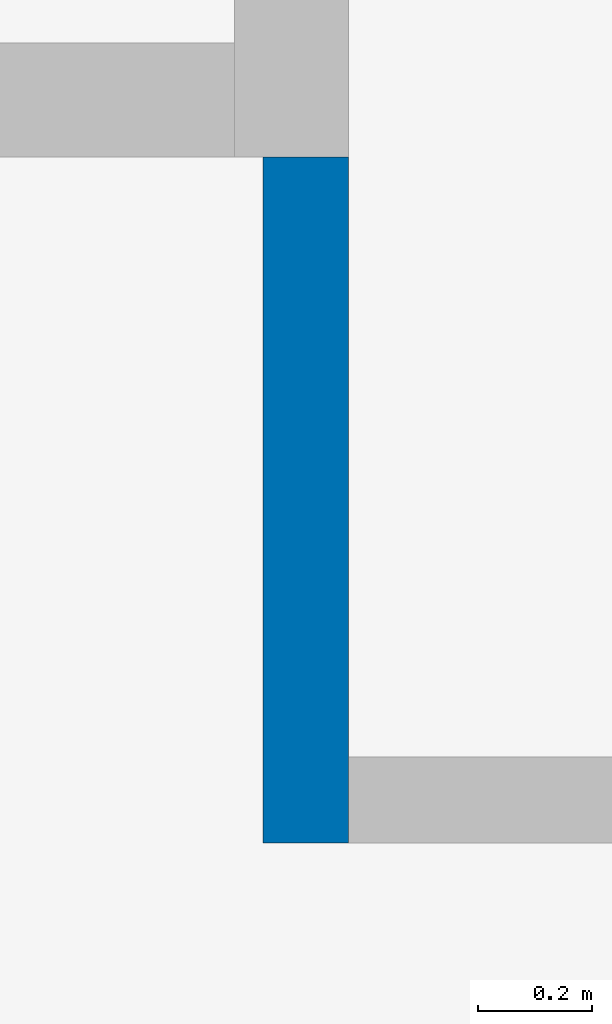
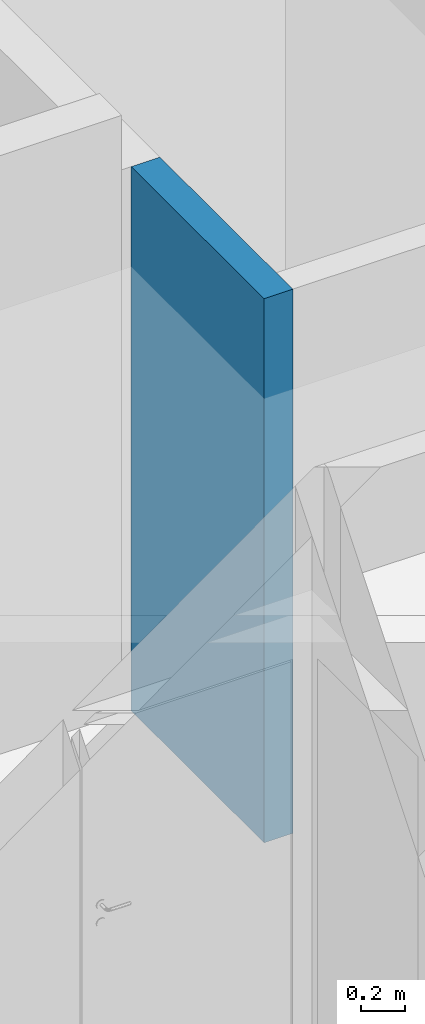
# One storey, part 26 of 58: 1 wall.
"""IFC2X3 building model written with IfcOpenShell, lengths in millimetres."""

from ifc_helpers import new_model, entity, si_unit, converted_unit, derived_unit, direction, frame, frame_2d, origin, place, context, subcontext, project, spatial, rectangle, extrude, material, layer, layer_set, layer_usage, type_object, element, save


model = new_model("IFC2X3")

# Units and contexts
model_context = context("Model", 3, precision=0.01, world=origin(), true_north=direction((0.7716245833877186, 0.6360782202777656)))
body_context = subcontext(model_context, "Body", "Model", "MODEL_VIEW")
ifc_project = project(units=[si_unit("LENGTHUNIT", "METRE", prefix="MILLI"), si_unit("AREAUNIT", "SQUARE_METRE"), converted_unit("PLANEANGLEUNIT", "DEGREE", entity("IfcPlaneAngleMeasure", 0.017453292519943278), si_unit("PLANEANGLEUNIT", "RADIAN"), dimensions=[0, 0, 0, 0, 0, 0, 0]), derived_unit("THERMALTRANSMITTANCEUNIT", [(si_unit("MASSUNIT", "GRAM", prefix="KILO"), 1), (si_unit("THERMODYNAMICTEMPERATUREUNIT", "KELVIN"), -1), (si_unit("TIMEUNIT", "SECOND"), -3)])], contexts=[model_context])

# Site, building, storey
site_placement = place(None, origin())
site = spatial("IfcSite", under=ifc_project, at=site_placement, Name="Default", CompositionType="ELEMENT")
building_placement = place(site_placement, origin())
building = spatial("IfcBuilding", under=site, at=building_placement, CompositionType="ELEMENT")
storey_placement = place(building_placement, frame((0.0, 0.0, 31140.0)))
storey = spatial("IfcBuildingStorey", under=building, at=storey_placement, Name="PLAN U1", CompositionType="ELEMENT", Elevation=31140.000000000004)

# Wall
ifc_material = material(Name="Eksist. vegg")
ifc_layer = layer(ifc_material, 150.0)
ifc_layer_set = layer_set([ifc_layer], Name="Basic Wall:240 Eksist. Innervegg 150 mm")
ifc_layer_usage = layer_usage(ifc_layer_set, "AXIS2", "NEGATIVE", 75.0)
wall_type = type_object("IfcWallType", Name="Basic Wall:240 Eksist. Innervegg 150 mm", PredefinedType="STANDARD", material=ifc_layer_set)
wall_placement = place(storey_placement, frame((263932.9244464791, 65215.255550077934, 0.0), z_axis=(0.0, 0.0, 1.0), x_axis=(0.0, -1.0, 0.0)))
element("IfcWallStandardCase", 1, at=wall_placement, inside=storey, type_object=wall_type, material=ifc_layer_usage, Name="Basic Wall:240 Eksist. Innervegg 150 mm", ObjectType="Basic Wall:240 Eksist. Innervegg 150 mm", context=body_context, shape_type="SweptSolid", body=[
    extrude(rectangle(XDim=1200.0000000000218, YDim=150.00000000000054, at=frame_2d((600.0000000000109, 0.0), x_axis=(-1.0, 0.0))), origin(), (0.0, 0.0, 1.0), 2999.9999999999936),
])

save(model, "model.ifc")
